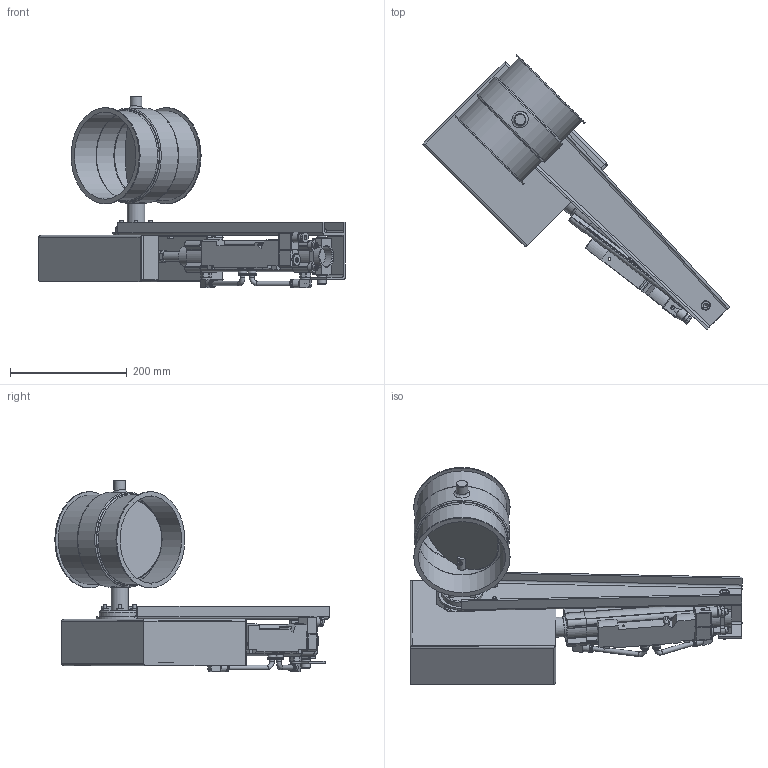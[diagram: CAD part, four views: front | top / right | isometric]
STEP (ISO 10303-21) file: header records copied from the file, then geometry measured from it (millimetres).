
FILE_DESCRIPTION((''),'2;1');
FILE_NAME('U:\Wolfgang\Marcel-3D\fertig\Kapitel 8\1521210.stp','2011-05-03T15:03:07',('TK1'),(''),'Autodesk Inventor 2010','Autodesk Inventor 2010','');
FILE_SCHEMA(('AUTOMOTIVE_DESIGN { 1 0 10303 214 1 1 1 1 }'));
Length unit declared in the file: millimetre
Products named in the file (38): 1521210; BuchseD15 70-50; Bolzen D15; Scheibe150b; F1 Zylindereinheit; 174412_ZNCF_40_6_0; 174412_ZNCF_40_6_01; 174412_ZNCF_40_6_02; 174412_ZNCF_40_6_03; 174412_ZNCF_40_6_04; 174412_ZNCF_40_6_05; 532743_DNCB_40_160_PPV_A_6_0; 532743_DNCB_40_160_PPV_A_6_01; 532743_DNCB_40_160_PPV_A_6_02; 537600_VUVB_S_B42_ZD_Q8_3AC1_6_0; 537600_VUVB_S_B42_ZD_Q8_3AC1_6_01; 537600_VUVB_S_B42_ZD_Q8_3AC1_6_02; 537600_VUVB_S_B42_ZD_Q8_3AC1_6_03; 4527_MSFG_24_42_50_60_6_0; 4527_MSFG_24_42_50_60_6_01; 4527_MSFG_24_42_50_60_6_02; 153414_QSRL_1_4_8_6_0; schlauch; Strebe d15; 0021088 d15; Bolzen; Schutzkasten; Kasten-a; Kasten-b; 13570_CRSG_M12x125_6_0; ISO 4018 M6 x 20; ISO 4032 M6; ISO 4018 M8 x 30; ISO 4027 M6 x 10; DIN 6912 M6 x 16; 1521210-1; DIN EN ISO 4018 M6x25; DIN 555 - ersetzt durch DIN EN 24034 M6
Assembly tree (50 placements, depth 4):
  1521210
    BuchseD15 70-50
    Bolzen D15  x2
    Scheibe150b
    F1 Zylindereinheit
      174412_ZNCF_40_6_0
        174412_ZNCF_40_6_01
        174412_ZNCF_40_6_02
        174412_ZNCF_40_6_03
        174412_ZNCF_40_6_04
        174412_ZNCF_40_6_05
      532743_DNCB_40_160_PPV_A_6_0
        532743_DNCB_40_160_PPV_A_6_01
        532743_DNCB_40_160_PPV_A_6_02
      537600_VUVB_S_B42_ZD_Q8_3AC1_6_0
        537600_VUVB_S_B42_ZD_Q8_3AC1_6_01
        537600_VUVB_S_B42_ZD_Q8_3AC1_6_02
        537600_VUVB_S_B42_ZD_Q8_3AC1_6_03
      4527_MSFG_24_42_50_60_6_0
        4527_MSFG_24_42_50_60_6_01
        4527_MSFG_24_42_50_60_6_02
      153414_QSRL_1_4_8_6_0  x2
      schlauch  x2
      Strebe d15
      0021088 d15
      Bolzen
      Schutzkasten
        Kasten-a
        Kasten-b
      13570_CRSG_M12x125_6_0
      ISO 4018 M6 x 20  x2
      ISO 4032 M6  x2
      ISO 4018 M8 x 30
      ISO 4027 M6 x 10  x2
    DIN 6912 M6 x 16  x2
    1521210-1
    DIN EN ISO 4018 M6x25  x4
    DIN 555 - ersetzt durch DIN EN 24034 M6  x4
Bounding box: 526.09 x 470.22 x 328.27 mm (x, y, z)
Volume: 1596636.8 mm3; surface area: 874209.3 mm2
Topology: 44 solids, 44 shells, 2636 faces, 6978 edges, 4530 vertices
Faces by surface type: plane 1948, cylinder 407, cone 223, bspline 45, torus 11, sphere 2
Full cylindrical faces by diameter (mm): 1 x3, 2.459 x1, 3 x4, 3.5 x1, 4 x1, 4.5 x1, 4.917 x8, 5 x2, 5.471 x2, 5.5 x1, 6 x37, 6.8 x4, 7.188 x1, 8 x10, 8.05 x1, 9 x2, 9.6 x2, 9.653 x1, 10 x8, 10.15 x2, 11.2 x2, 11.445 x2, 12 x6, 12.5 x1, 13.05 x2, 13.157 x2, 14 x6, 14.4 x4, 14.5 x2, 14.7 x6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
Entity records: 76931 total; most frequent: CARTESIAN_POINT 15245, ORIENTED_EDGE 12294, DIRECTION 11865, EDGE_CURVE 6147, VECTOR 4909, LINE 4909, VERTEX_POINT 4172, AXIS2_PLACEMENT_3D 3478
